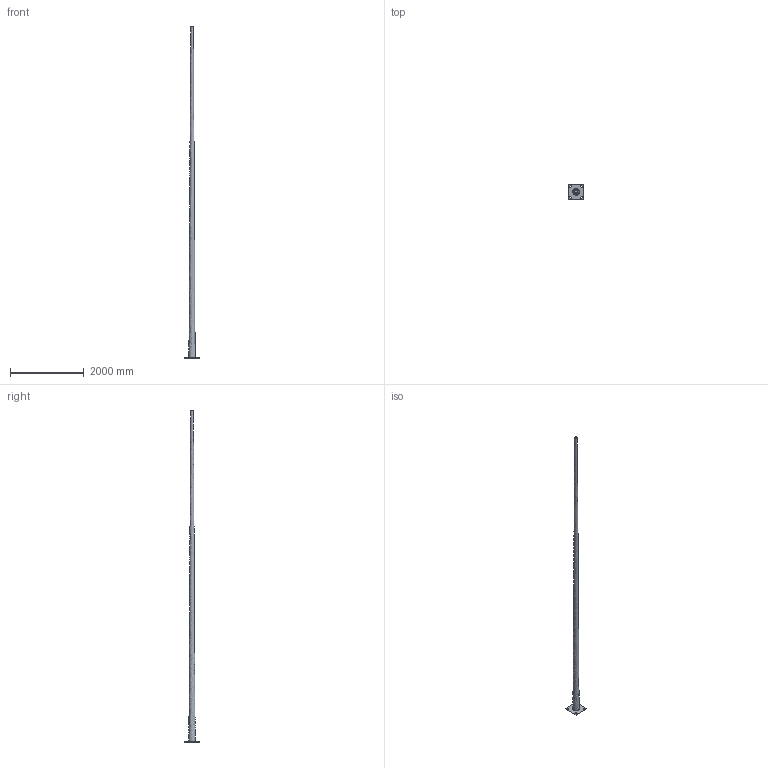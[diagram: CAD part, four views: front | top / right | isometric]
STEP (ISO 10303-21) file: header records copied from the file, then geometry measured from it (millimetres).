
FILE_DESCRIPTION(('FreeCAD Model'),'2;1');
FILE_NAME('Open CASCADE Shape Model','2024-12-18T14:47:39',(''),(''), 'Open CASCADE STEP processor 7.8','FreeCAD','Unknown');
FILE_SCHEMA(('AUTOMOTIVE_DESIGN { 1 0 10303 214 1 1 1 1 }'));
Length unit declared in the file: millimetre
Products named in the file (1): Body
Bounding box: 412 x 412 x 9000 mm (x, y, z)
Volume: 10992308.1 mm3; surface area: 7121464 mm2
Topology: 1 solids, 1 shells, 51 faces, 144 edges, 97 vertices
Faces by surface type: plane 32, cylinder 16, bspline 2, offset 1
Entity records: 3064 total; most frequent: CARTESIAN_POINT 1801, ORIENTED_EDGE 288, DIRECTION 198, EDGE_CURVE 144, VERTEX_POINT 97, LINE 68, VECTOR 68, AXIS2_PLACEMENT_3D 65
